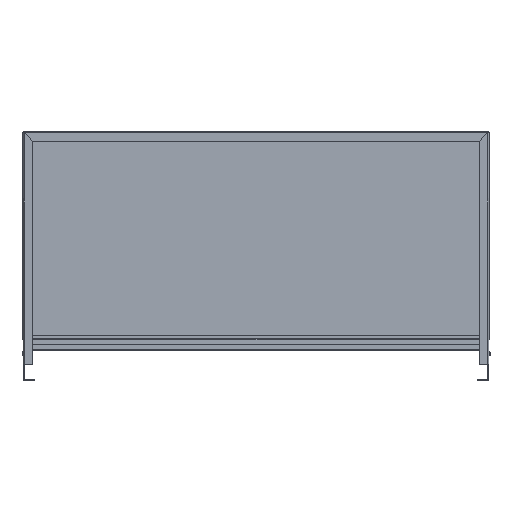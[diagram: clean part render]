
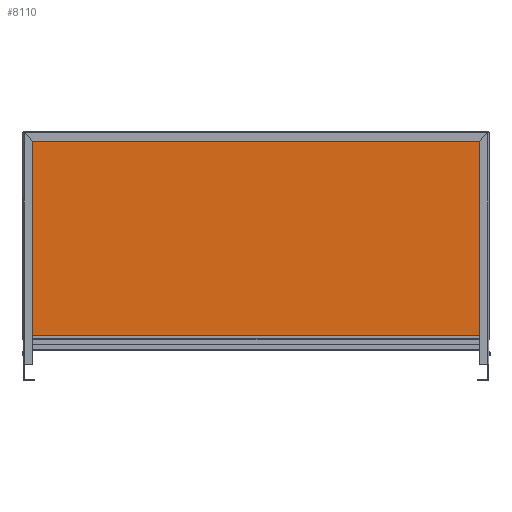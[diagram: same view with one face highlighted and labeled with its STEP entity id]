
A CAD part, front view. The second image highlights one B-rep face of the part: STEP entity #8110.
In plain terms, the highlighted planar face has unit normal (0, -1, 0).
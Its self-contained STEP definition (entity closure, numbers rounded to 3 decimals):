
#3022=CARTESIAN_POINT('',(-625.5,0.8,81.8));
#3023=VERTEX_POINT('',#3022);
#3056=CARTESIAN_POINT('',(-647.771,0.8,647.2));
#3057=VERTEX_POINT('',#3056);
#3087=CARTESIAN_POINT('',(-625.5,0.8,624.929));
#3088=VERTEX_POINT('',#3087);
#3095=CARTESIAN_POINT('',(-625.5,0.8,624.929));
#3096=DIRECTION('',(-0.707,-0.,0.707));
#3097=VECTOR('',#3096,31.496);
#3098=LINE('',#3095,#3097);
#3099=EDGE_CURVE('',#3088,#3057,#3098,.T.);
#3124=CARTESIAN_POINT('',(-625.5,0.8,624.929));
#3125=DIRECTION('',(0.,-0.,-1.));
#3126=VECTOR('',#3125,543.129);
#3127=LINE('',#3124,#3126);
#3128=EDGE_CURVE('',#3088,#3023,#3127,.T.);
#3280=CARTESIAN_POINT('',(625.5,0.8,81.8));
#3281=VERTEX_POINT('',#3280);
#3296=CARTESIAN_POINT('',(647.771,0.8,647.2));
#3297=VERTEX_POINT('',#3296);
#3350=CARTESIAN_POINT('',(625.5,0.8,624.929));
#3351=VERTEX_POINT('',#3350);
#3352=CARTESIAN_POINT('',(647.771,0.8,647.2));
#3353=DIRECTION('',(-0.707,0.,-0.707));
#3354=VECTOR('',#3353,31.496);
#3355=LINE('',#3352,#3354);
#3356=EDGE_CURVE('',#3297,#3351,#3355,.T.);
#3374=CARTESIAN_POINT('',(625.5,0.8,81.8));
#3375=DIRECTION('',(-0.,-0.,1.));
#3376=VECTOR('',#3375,543.129);
#3377=LINE('',#3374,#3376);
#3378=EDGE_CURVE('',#3281,#3351,#3377,.T.);
#3536=CARTESIAN_POINT('',(-647.629,0.8,647.2));
#3537=VERTEX_POINT('',#3536);
#3544=CARTESIAN_POINT('',(-625.429,0.8,625.));
#3545=VERTEX_POINT('',#3544);
#3546=CARTESIAN_POINT('',(-647.629,0.8,647.2));
#3547=DIRECTION('',(0.707,0.,-0.707));
#3548=VECTOR('',#3547,31.396);
#3549=LINE('',#3546,#3548);
#3550=EDGE_CURVE('',#3537,#3545,#3549,.T.);
#3597=CARTESIAN_POINT('',(647.629,0.8,647.2));
#3598=VERTEX_POINT('',#3597);
#3629=CARTESIAN_POINT('',(625.429,0.8,625.));
#3630=VERTEX_POINT('',#3629);
#3637=CARTESIAN_POINT('',(625.429,0.8,625.));
#3638=DIRECTION('',(0.707,-0.,0.707));
#3639=VECTOR('',#3638,31.396);
#3640=LINE('',#3637,#3639);
#3641=EDGE_CURVE('',#3630,#3598,#3640,.T.);
#3660=CARTESIAN_POINT('',(625.429,0.8,625.));
#3661=DIRECTION('',(-1.,-0.,-0.));
#3662=VECTOR('',#3661,1250.859);
#3663=LINE('',#3660,#3662);
#3664=EDGE_CURVE('',#3630,#3545,#3663,.T.);
#8078=CARTESIAN_POINT('',(0.,0.8,0.));
#8079=DIRECTION('',(0.,1.,0.));
#8080=DIRECTION('',(-1.,0.,0.));
#8081=AXIS2_PLACEMENT_3D('',#8078,#8079,#8080);
#8082=PLANE('',#8081);
#8083=ORIENTED_EDGE('',*,*,#3099,.F.);
#8084=ORIENTED_EDGE('',*,*,#3128,.T.);
#8085=CARTESIAN_POINT('',(625.5,0.8,81.8));
#8086=DIRECTION('',(-1.,0.,0.));
#8087=VECTOR('',#8086,1251.);
#8088=LINE('',#8085,#8087);
#8089=EDGE_CURVE('',#3281,#3023,#8088,.T.);
#8090=ORIENTED_EDGE('',*,*,#8089,.F.);
#8091=ORIENTED_EDGE('',*,*,#3378,.T.);
#8092=ORIENTED_EDGE('',*,*,#3356,.F.);
#8093=CARTESIAN_POINT('',(647.629,0.8,647.2));
#8094=DIRECTION('',(1.,0.,-0.));
#8095=VECTOR('',#8094,0.141);
#8096=LINE('',#8093,#8095);
#8097=EDGE_CURVE('',#3598,#3297,#8096,.T.);
#8098=ORIENTED_EDGE('',*,*,#8097,.F.);
#8099=ORIENTED_EDGE('',*,*,#3641,.F.);
#8100=ORIENTED_EDGE('',*,*,#3664,.T.);
#8101=ORIENTED_EDGE('',*,*,#3550,.F.);
#8102=CARTESIAN_POINT('',(-647.771,0.8,647.2));
#8103=DIRECTION('',(1.,0.,-0.));
#8104=VECTOR('',#8103,0.141);
#8105=LINE('',#8102,#8104);
#8106=EDGE_CURVE('',#3057,#3537,#8105,.T.);
#8107=ORIENTED_EDGE('',*,*,#8106,.F.);
#8108=EDGE_LOOP('',(#8083,#8084,#8090,#8091,#8092,#8098,#8099,#8100,#8101,#8107));
#8109=FACE_BOUND('',#8108,.T.);
#8110=ADVANCED_FACE('',(#8109),#8082,.F.);
